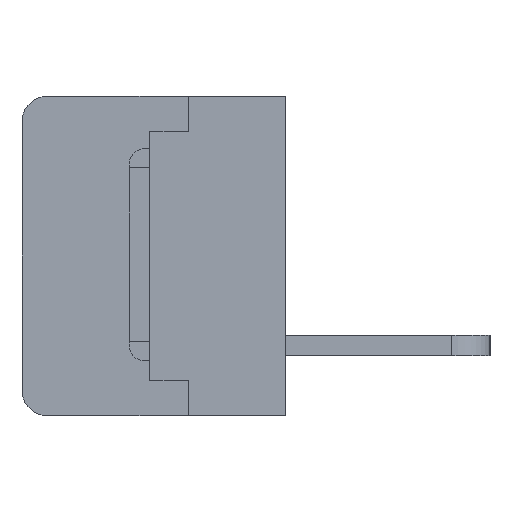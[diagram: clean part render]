
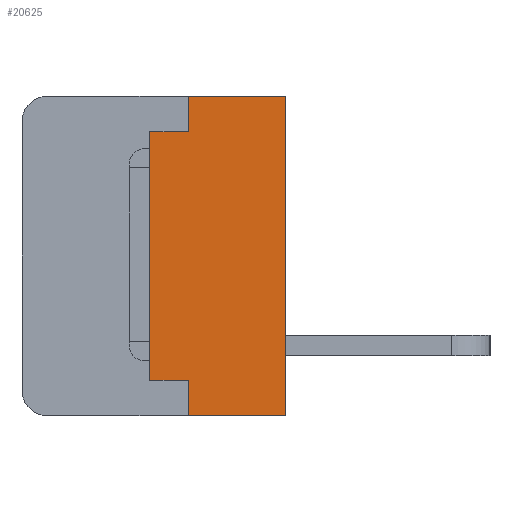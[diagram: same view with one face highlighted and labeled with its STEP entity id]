
A CAD part, left-side view. The second image highlights one B-rep face of the part: STEP entity #20625.
In plain terms, the highlighted planar face has unit normal (-1, 0, 0).
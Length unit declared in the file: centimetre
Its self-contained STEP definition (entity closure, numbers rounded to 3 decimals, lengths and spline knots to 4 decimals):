
#1265=PLANE('',#33918);
#1985=VECTOR('',#21918,1.);
#2076=VECTOR('',#22065,1.);
#2102=VECTOR('',#22094,1.);
#2127=VECTOR('',#22120,1.);
#3162=VECTOR('',#24568,1.);
#3163=VECTOR('',#24569,1.);
#3164=VECTOR('',#24570,1.);
#3165=VECTOR('',#24571,1.);
#4141=LINE('',#27233,#1985);
#4232=LINE('',#27444,#2076);
#4258=LINE('',#27498,#2102);
#4283=LINE('',#27547,#2127);
#5318=LINE('',#31193,#3162);
#5319=LINE('',#31195,#3163);
#5320=LINE('',#31196,#3164);
#5321=LINE('',#31198,#3165);
#6233=VERTEX_POINT('',#27232);
#6234=VERTEX_POINT('',#27234);
#6287=VERTEX_POINT('',#27384);
#6316=VERTEX_POINT('',#27443);
#6342=VERTEX_POINT('',#27497);
#6366=VERTEX_POINT('',#27548);
#7386=VERTEX_POINT('',#31194);
#7387=VERTEX_POINT('',#31197);
#8899=EDGE_CURVE('',#6233,#6234,#4141,.T.);
#9003=EDGE_CURVE('',#6316,#6287,#4232,.T.);
#9030=EDGE_CURVE('',#6287,#6342,#4258,.T.);
#9055=EDGE_CURVE('',#6342,#6366,#4283,.T.);
#10629=EDGE_CURVE('',#7386,#6316,#5318,.T.);
#10630=EDGE_CURVE('',#6234,#7386,#5319,.T.);
#10631=EDGE_CURVE('',#7387,#6233,#5320,.T.);
#10632=EDGE_CURVE('',#6366,#7387,#5321,.T.);
#16140=ORIENTED_EDGE('',*,*,#10629,.F.);
#16141=ORIENTED_EDGE('',*,*,#10630,.F.);
#16142=ORIENTED_EDGE('',*,*,#8899,.F.);
#16143=ORIENTED_EDGE('',*,*,#10631,.F.);
#16144=ORIENTED_EDGE('',*,*,#10632,.F.);
#16145=ORIENTED_EDGE('',*,*,#9055,.F.);
#16146=ORIENTED_EDGE('',*,*,#9030,.F.);
#16147=ORIENTED_EDGE('',*,*,#9003,.F.);
#18208=EDGE_LOOP('',(#16140,#16141,#16142,#16143,#16144,#16145,#16146,#16147));
#19480=FACE_BOUND('',#18208,.T.);
#20625=ADVANCED_FACE('',(#19480),#1265,.F.);
#21918=DIRECTION('',(0.,0.,1.));
#22065=DIRECTION('',(0.,-1.,0.));
#22094=DIRECTION('',(0.,0.,-1.));
#22120=DIRECTION('',(0.,1.,0.));
#24567=DIRECTION('',(1.,0.,0.));
#24568=DIRECTION('',(0.,0.,1.));
#24569=DIRECTION('',(0.,-1.,0.));
#24570=DIRECTION('',(0.,1.,0.));
#24571=DIRECTION('',(0.,0.,1.));
#27232=CARTESIAN_POINT('',(-1.382,0.53,-0.485));
#27233=CARTESIAN_POINT('',(-1.382,0.53,-0.485));
#27234=CARTESIAN_POINT('',(-1.382,0.53,0.485));
#27384=CARTESIAN_POINT('',(-1.382,0.,0.625));
#27443=CARTESIAN_POINT('',(-1.382,0.38,0.625));
#27444=CARTESIAN_POINT('',(-1.382,0.38,0.625));
#27497=CARTESIAN_POINT('',(-1.382,0.,-0.625));
#27498=CARTESIAN_POINT('',(-1.382,0.,0.625));
#27547=CARTESIAN_POINT('',(-1.382,0.,-0.625));
#27548=CARTESIAN_POINT('',(-1.382,0.38,-0.625));
#31192=CARTESIAN_POINT('',(-1.382,0.2532,0.));
#31193=CARTESIAN_POINT('',(-1.382,0.38,0.485));
#31194=CARTESIAN_POINT('',(-1.382,0.38,0.485));
#31195=CARTESIAN_POINT('',(-1.382,0.53,0.485));
#31196=CARTESIAN_POINT('',(-1.382,0.38,-0.485));
#31197=CARTESIAN_POINT('',(-1.382,0.38,-0.485));
#31198=CARTESIAN_POINT('',(-1.382,0.38,-0.625));
#33918=AXIS2_PLACEMENT_3D('',#31192,#24567,$);
